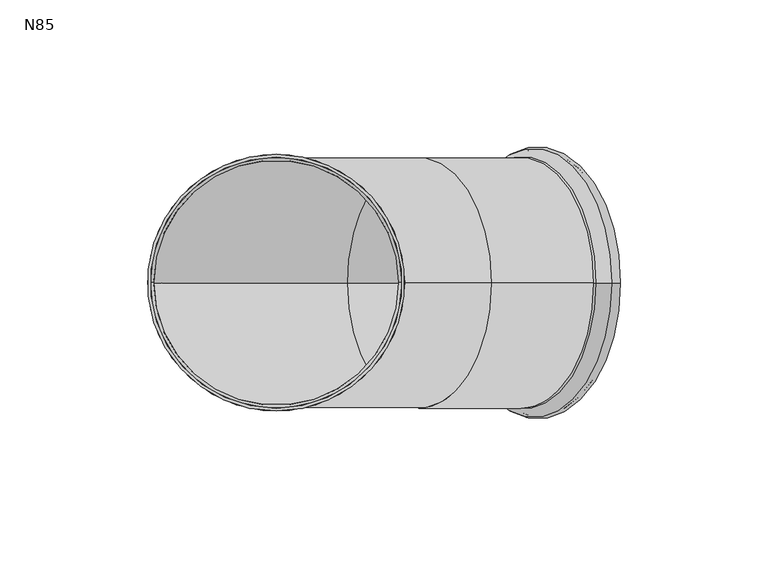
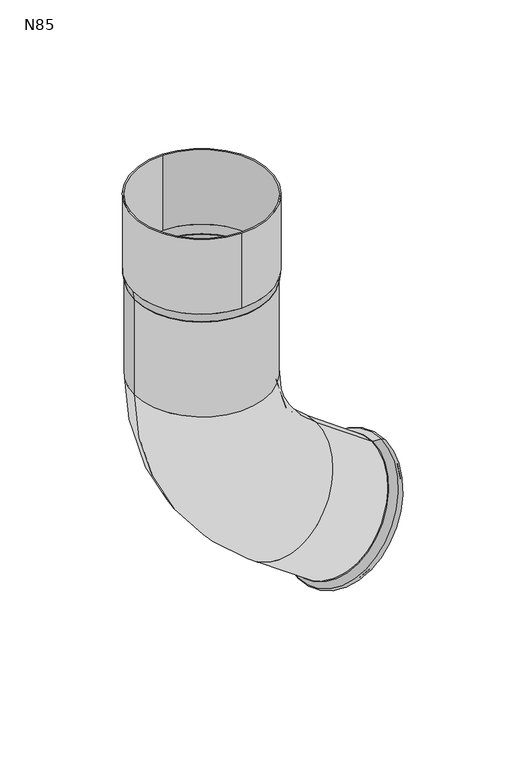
"""IFC4 building model written with IfcOpenShell, lengths in millimetres: proxy geometry, GROVIK_Downpipe_Shoe : N85."""

from ifc_helpers import new_model, si_unit, point, frame, origin, origin_with_axes, origin_2d, place, context, project, spatial, polyline, circle_curve, ellipse_curve, trimmed, segment, composite_curve, outline, extrude, source, transform, mapped, element, save
from ifc_brep_helpers import plane_surface, cylinder_surface, revolved_surface, advanced_brep


def n85_78dd6ef3(model_context):
    return source(origin(), model_context, "Body", "SolidModel", [
        extrude(outline(composite_curve([segment(trimmed(circle_curve(origin_2d(), 43.5), [point((0.0, 43.5))], [point((0.0, -43.5))], False, "CARTESIAN"), True, "CONTINUOUS"), segment(trimmed(circle_curve(origin_2d(), 43.5), [point((0.0, -43.5))], [point((0.0, 43.5))], False, "CARTESIAN"), True, "CONTINUOUS")], self_intersect=False), holes=[composite_curve([segment(trimmed(circle_curve(origin_2d(), 42.5), [point((0.0, 42.5))], [point((0.0, -42.5))], True, "CARTESIAN"), True, "CONTINUOUS"), segment(trimmed(circle_curve(origin_2d(), 42.5), [point((0.0, -42.5))], [point((0.0, 42.5))], True, "CARTESIAN"), True, "CONTINUOUS")], self_intersect=False)]), frame((0.0, 0.0, 6.0), z_axis=(0.0, 0.0, 1.0), x_axis=(1.0, 0.0, 0.0)), (0.0, 0.0, 1.0), 50.0),
        advanced_brep(
        [(107.3763986, 0.0, -146.9907932), (58.0499964, 0.0, -216.2143877), (106.796088, 0.0, -147.8051884), (58.630307, 0.0, -215.3999925), (72.9274804, 0.0, -122.4436542), (23.6010781, 0.0, -191.6672487), (72.3471698, 0.0, -123.2580494), (24.1813888, 0.0, -190.8528535), (42.5, 0.0, 0.0), (-42.5, 0.0, 0.0), (41.5, 0.0, 0.0), (-41.5, 0.0, 0.0), (-42.5, 0.0, -63.4), (42.5, 0.0, -63.4), (-41.5, 0.0, -63.4), (41.5, 0.0, -63.4)],
        [
            (0, 1, circle_curve(frame((82.7131975, 0.0, -181.6025904), z_axis=(0.8143952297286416, 0.0, -0.5803106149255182), x_axis=(-0.5803106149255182, 0.0, -0.8143952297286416)), 42.5)),
            (1, 0, circle_curve(frame((82.7131975, 0.0, -181.6025904), z_axis=(0.8143952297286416, 0.0, -0.5803106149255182), x_axis=(-0.5803106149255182, 0.0, -0.8143952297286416)), 42.5)),
            (2, 3, circle_curve(frame((82.7131975, 0.0, -181.6025904), z_axis=(-0.8143952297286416, 0.0, 0.5803106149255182), x_axis=(-0.5803106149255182, 0.0, -0.8143952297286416)), 41.5)),
            (3, 2, circle_curve(frame((82.7131975, 0.0, -181.6025904), z_axis=(-0.8143952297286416, 0.0, 0.5803106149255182), x_axis=(-0.5803106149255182, 0.0, -0.8143952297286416)), 41.5)),
            (0, 4),
            (4, 5, circle_curve(frame((48.2642793, 0.0, -157.0554514), z_axis=(0.8143952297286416, 0.0, -0.5803106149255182), x_axis=(-0.5803106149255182, 0.0, -0.8143952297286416)), 42.5)),
            (5, 1),
            (5, 4, circle_curve(frame((48.2642793, 0.0, -157.0554514), z_axis=(0.8143952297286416, 0.0, -0.5803106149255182), x_axis=(-0.5803106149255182, 0.0, -0.8143952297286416)), 42.5)),
            (2, 6),
            (6, 7, circle_curve(frame((48.2642793, 0.0, -157.0554514), z_axis=(-0.8143952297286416, 0.0, 0.5803106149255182), x_axis=(-0.5803106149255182, 0.0, -0.8143952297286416)), 41.5)),
            (7, 3),
            (7, 6, circle_curve(frame((48.2642793, 0.0, -157.0554514), z_axis=(-0.8143952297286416, 0.0, 0.5803106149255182), x_axis=(-0.5803106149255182, 0.0, -0.8143952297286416)), 41.5)),
            (8, 9, circle_curve(frame((0.0, 0.0, 0.0), z_axis=(0.0, 0.0, 1.0), x_axis=(-1.0, 0.0, 0.0)), 42.5)),
            (9, 8, circle_curve(frame((0.0, 0.0, 0.0), z_axis=(0.0, 0.0, 1.0), x_axis=(-1.0, 0.0, 0.0)), 42.5)),
            (10, 11, circle_curve(frame((0.0, 0.0, 0.0), z_axis=(0.0, 0.0, -1.0), x_axis=(-1.0, 0.0, 0.0)), 41.5)),
            (11, 10, circle_curve(frame((0.0, 0.0, 0.0), z_axis=(0.0, 0.0, -1.0), x_axis=(-1.0, 0.0, 0.0)), 41.5)),
            (12, 13, circle_curve(frame((0.0, 0.0, -63.4), z_axis=(0.0, 0.0, 1.0), x_axis=(-1.0, 0.0, 0.0)), 42.5)),
            (13, 8),
            (9, 12),
            (13, 12, circle_curve(frame((0.0, 0.0, -63.4), z_axis=(0.0, 0.0, 1.0), x_axis=(-1.0, 0.0, 0.0)), 42.5)),
            (14, 15, circle_curve(frame((0.0, 0.0, -63.4), z_axis=(0.0, 0.0, -1.0), x_axis=(-1.0, 0.0, 0.0)), 41.5)),
            (15, 10),
            (11, 14),
            (15, 14, circle_curve(frame((0.0, 0.0, -63.4), z_axis=(0.0, 0.0, -1.0), x_axis=(-1.0, 0.0, 0.0)), 41.5)),
            (12, 5, circle_curve(frame((115.0, 0.0, -63.4), z_axis=(0.0, -1.0, 0.0), x_axis=(-0.5803106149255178, 0.0, -0.8143952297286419)), 157.5)),
            (4, 13, circle_curve(frame((115.0, 0.0, -63.4), z_axis=(0.0, 1.0, 0.0), x_axis=(-0.5803106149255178, 0.0, -0.8143952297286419)), 72.5)),
            (14, 7, circle_curve(frame((115.0, 0.0, -63.4), z_axis=(0.0, -1.0, 0.0), x_axis=(-0.5803106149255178, 0.0, -0.8143952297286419)), 156.5)),
            (6, 15, circle_curve(frame((115.0, 0.0, -63.4), z_axis=(0.0, 1.0, 0.0), x_axis=(-0.5803106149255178, 0.0, -0.8143952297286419)), 73.5)),
        ],
        [
            plane_surface(frame((82.7131975, 0.0, -181.6025904), z_axis=(0.8143952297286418, 0.0, -0.5803106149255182), x_axis=(0.0, -1.0, 0.0))),
            cylinder_surface(frame((82.7131975, 0.0, -181.6025904), z_axis=(0.8143952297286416, 0.0, -0.5803106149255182), x_axis=(-0.5803106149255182, 0.0, -0.8143952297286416)), 42.5),
            revolved_surface(polyline([(24.1813887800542, 0.0, -190.85285343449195), (58.630307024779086, 0.0, -215.39999246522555)]), (82.7131975, 0.0, -181.6025904), (-0.8143952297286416, 0.0, 0.5803106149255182)),
            plane_surface(frame((0.0, 0.0, 0.0), z_axis=(0.0, 0.0, 1.0), x_axis=(0.0, -1.0, 0.0))),
            cylinder_surface(frame((0.0, 0.0, -63.4), z_axis=(0.0, 0.0, -1.0), x_axis=(-1.0, 0.0, 0.0)), 42.5),
            revolved_surface(polyline([(-41.5, 0.0, 0.0), (-41.5, 0.0, -63.4)]), (0.0, 0.0, -63.4), (0.0, 0.0, 1.0)),
            revolved_surface(trimmed(ellipse_curve(frame((48.2642793, 0.0, -157.0554514), z_axis=(0.8143952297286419, 0.0, -0.5803106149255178), x_axis=(-0.5803106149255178, 0.0, -0.8143952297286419)), 42.5, 42.5), [point((72.9274804, 0.0, -122.4436542))], [point((23.6010781, 0.0, -191.6672487))], True, "CARTESIAN"), (115.0, 0.0, -63.4), (0.0, 1.0, 0.0)),
            revolved_surface(trimmed(ellipse_curve(frame((48.2642793, 0.0, -157.0554514), z_axis=(0.8143952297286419, 0.0, -0.5803106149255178), x_axis=(-0.5803106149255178, 0.0, -0.8143952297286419)), 42.5, 42.5), [point((23.6010781, 0.0, -191.6672487))], [point((72.9274804, 0.0, -122.4436542))], True, "CARTESIAN"), (115.0, 0.0, -63.4), (0.0, 1.0, 0.0)),
            revolved_surface(trimmed(ellipse_curve(frame((48.2642793, 0.0, -157.0554514), z_axis=(-0.8143952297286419, 0.0, 0.5803106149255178), x_axis=(-0.5803106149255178, 0.0, -0.8143952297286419)), 41.5, 41.5), [point((72.3471698, 0.0, -123.2580494))], [point((24.1813888, 0.0, -190.8528535))], True, "CARTESIAN"), (115.0, 0.0, -63.4), (0.0, 1.0, 0.0)),
            revolved_surface(trimmed(ellipse_curve(frame((48.2642793, 0.0, -157.0554514), z_axis=(-0.8143952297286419, 0.0, 0.5803106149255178), x_axis=(-0.5803106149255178, 0.0, -0.8143952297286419)), 41.5, 41.5), [point((24.1813888, 0.0, -190.8528535))], [point((72.3471698, 0.0, -123.2580494))], True, "CARTESIAN"), (115.0, 0.0, -63.4), (0.0, 1.0, 0.0)),
        ],
        [
            (0, [[1, 2], [3, 4]]),
            (1, [[-1, 5, 6, 7]]),
            (1, [[-2, -7, 8, -5]]),
            (2, [[-3, 9, 10, 11]]),
            (2, [[-4, -11, 12, -9]]),
            (3, [[13, 14], [15, 16]]),
            (4, [[17, 18, -14, 19]]),
            (4, [[20, -19, -13, -18]]),
            (5, [[21, 22, -16, 23]]),
            (5, [[24, -23, -15, -22]]),
            (6, [[25, -6, 26, -17]]),
            (7, [[-26, -8, -25, -20]]),
            (8, [[27, -10, 28, -21]]),
            (9, [[-28, -12, -27, -24]]),
        ],
    ),
        advanced_brep(
        [(-43.5, 0.0, 6.0), (43.5, 0.0, 6.0), (42.5, 0.0, 6.0), (-42.5, 0.0, 6.0), (-42.5, 0.0, 0.0), (42.5, 0.0, 0.0), (-41.5, 0.0, 0.0), (41.5, 0.0, 0.0)],
        [
            (0, 1, circle_curve(frame((0.0, 0.0, 6.0), z_axis=(0.0, 0.0, 1.0), x_axis=(-1.0, 0.0, 0.0)), 43.5)),
            (1, 0, circle_curve(frame((0.0, 0.0, 6.0), z_axis=(0.0, 0.0, 1.0), x_axis=(1.0, 0.0, 0.0)), 43.5)),
            (2, 3, circle_curve(frame((0.0, 0.0, 6.0), z_axis=(0.0, 0.0, -1.0), x_axis=(-1.0, 0.0, 0.0)), 42.5)),
            (3, 2, circle_curve(frame((0.0, 0.0, 6.0), z_axis=(0.0, 0.0, -1.0), x_axis=(1.0, 0.0, 0.0)), 42.5)),
            (4, 5, circle_curve(frame((0.0, 0.0, 0.0), z_axis=(0.0, 0.0, -1.0), x_axis=(1.0, 0.0, 0.0)), 42.5)),
            (5, 4, circle_curve(frame((0.0, 0.0, 0.0), z_axis=(0.0, 0.0, -1.0), x_axis=(-1.0, 0.0, 0.0)), 42.5)),
            (6, 7, circle_curve(frame((0.0, 0.0, 0.0), z_axis=(0.0, 0.0, 1.0), x_axis=(-1.0, 0.0, 0.0)), 41.5)),
            (7, 6, circle_curve(origin_with_axes(), 41.5)),
            (0, 4),
            (5, 1),
            (6, 3),
            (2, 7),
        ],
        [
            plane_surface(frame((0.0, 0.0, 6.0), z_axis=(0.0, 0.0, 1.0), x_axis=(0.0, -1.0, 0.0))),
            plane_surface(frame((0.0, 0.0, 0.0), z_axis=(0.0, 0.0, -1.0), x_axis=(0.0, -1.0, 0.0))),
            revolved_surface(polyline([(42.5, 0.0, 0.0), (43.5, 0.0, 6.0)]), (0.0, 0.0, -255.0), (0.0, 0.0, 1.0)),
            revolved_surface(polyline([(-42.5, 0.0, 0.0), (-43.5, 0.0, 6.0)]), (0.0, 0.0, -255.0), (0.0, 0.0, 1.0)),
            revolved_surface(polyline([(-42.5, 0.0, 6.0), (-41.5, 0.0, 0.0)]), (0.0, 0.0, -249.0), (0.0, 0.0, 1.0)),
        ],
        [
            (0, [[1, 2], [3, 4]]),
            (1, [[5, 6], [7, 8]]),
            (2, [[-1, 9, -6, 10]]),
            (3, [[-2, -10, -5, -9]]),
            (4, [[11, -3, 12, -7]]),
            (4, [[-11, -8, -12, -4]]),
        ],
    ),
        advanced_brep(
        [(59.285818, 0.0, -215.8670875), (107.451599, 0.0, -148.2722835), (106.7600744, 0.0, -147.7795263), (58.5942934, 0.0, -215.3743304), (61.6993401, 0.0, -221.575106), (113.6348078, 0.0, -148.690006), (64.6750442, 0.0, -222.443918), (115.4275182, 0.0, -151.2190056), (67.5580023, 0.0, -219.2602075), (113.3594868, 0.0, -154.9834054), (68.3773314, 0.0, -219.8440338), (114.1788159, 0.0, -155.5672317), (65.2418475, 0.0, -223.2677712), (116.3912773, 0.0, -151.4857796), (60.7782913, 0.0, -221.9645531), (113.7022118, 0.0, -147.6922802), (58.6954591, 0.0, -217.0386217), (108.3661984, 0.0, -147.3317921), (58.0139827, 0.0, -216.1887256), (107.340385, 0.0, -146.9651311)],
        [
            (0, 1, circle_curve(frame((83.3687085, 0.0, -182.0696855), z_axis=(0.8143952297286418, 0.0, -0.580310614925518), x_axis=(0.580310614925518, 0.0, 0.8143952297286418)), 41.5)),
            (1, 2),
            (2, 3, circle_curve(frame((82.6771839, 0.0, -181.5769283), z_axis=(-0.8143952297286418, 0.0, 0.580310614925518), x_axis=(0.580310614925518, 0.0, 0.8143952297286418)), 41.5)),
            (3, 0),
            (1, 0, circle_curve(frame((83.3687085, 0.0, -182.0696855), z_axis=(0.8143952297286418, 0.0, -0.580310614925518), x_axis=(0.580310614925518, 0.0, 0.8143952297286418)), 41.5)),
            (3, 2, circle_curve(frame((82.6771839, 0.0, -181.5769283), z_axis=(-0.8143952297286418, 0.0, 0.580310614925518), x_axis=(0.580310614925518, 0.0, 0.8143952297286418)), 41.5)),
            (4, 5, circle_curve(frame((87.667074, 0.0, -185.132556), z_axis=(0.8143952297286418, 0.0, -0.580310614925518), x_axis=(0.580310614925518, 0.0, 0.8143952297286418)), 44.7479905)),
            (5, 1),
            (0, 4),
            (5, 4, circle_curve(frame((87.667074, 0.0, -185.132556), z_axis=(0.8143952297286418, 0.0, -0.580310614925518), x_axis=(0.580310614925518, 0.0, 0.8143952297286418)), 44.7479905)),
            (6, 7, circle_curve(frame((90.0512812, 0.0, -186.8314618), z_axis=(0.8143952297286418, 0.0, -0.580310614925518), x_axis=(0.580310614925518, 0.0, 0.8143952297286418)), 43.7287142)),
            (7, 5, circle_curve(frame((113.5, 0.0, -150.6854575), z_axis=(0.0, -1.0, 0.0), x_axis=(1.0, 0.0, 0.0)), 2.0)),
            (4, 6, circle_curve(frame((63.5414377, 0.0, -220.7962116), z_axis=(0.0, -1.0, 0.0), x_axis=(0.3264791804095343, 0.0, -0.9452043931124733)), 2.0)),
            (7, 6, circle_curve(frame((90.0512812, 0.0, -186.8314618), z_axis=(0.8143952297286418, 0.0, -0.580310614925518), x_axis=(0.580310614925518, 0.0, 0.8143952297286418)), 43.7287142)),
            (8, 9, circle_curve(frame((90.4587446, 0.0, -187.1218064), z_axis=(0.8143952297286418, 0.0, -0.580310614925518), x_axis=(0.580310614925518, 0.0, 0.8143952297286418)), 39.4629043)),
            (9, 7, circle_curve(frame((106.437738, 0.0, -148.730583), z_axis=(0.0, -1.0, 0.0), x_axis=(1.0, 0.0, 0.0)), 9.3278291)),
            (6, 8, circle_curve(frame((59.3880002, 0.0, -214.7591564), z_axis=(0.0, -1.0, 0.0), x_axis=(0.3264791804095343, 0.0, -0.9452043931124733)), 9.3278291)),
            (9, 8, circle_curve(frame((90.4587446, 0.0, -187.1218064), z_axis=(0.8143952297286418, 0.0, -0.580310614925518), x_axis=(0.580310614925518, 0.0, 0.8143952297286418)), 39.4629043)),
            (10, 11, circle_curve(frame((91.2780737, 0.0, -187.7056327), z_axis=(0.8143952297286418, 0.0, -0.580310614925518), x_axis=(0.580310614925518, 0.0, 0.8143952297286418)), 39.4629043)),
            (11, 9),
            (8, 10),
            (11, 10, circle_curve(frame((91.2780737, 0.0, -187.7056327), z_axis=(0.8143952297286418, 0.0, -0.580310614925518), x_axis=(0.580310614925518, 0.0, 0.8143952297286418)), 39.4629043)),
            (12, 13, circle_curve(frame((90.8165624, 0.0, -187.3767754), z_axis=(0.8143952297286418, 0.0, -0.580310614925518), x_axis=(0.580310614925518, 0.0, 0.8143952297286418)), 44.0707343)),
            (13, 11, circle_curve(frame((106.437738, 0.0, -148.730583), z_axis=(0.0, 1.0, 0.0), x_axis=(1.0, 0.0, 0.0)), 10.3278291)),
            (10, 12, circle_curve(frame((59.3880002, 0.0, -214.7591564), z_axis=(0.0, 1.0, 0.0), x_axis=(0.3264791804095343, 0.0, -0.9452043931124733)), 10.3278291)),
            (13, 12, circle_curve(frame((90.8165624, 0.0, -187.3767754), z_axis=(0.8143952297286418, 0.0, -0.580310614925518), x_axis=(0.580310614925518, 0.0, 0.8143952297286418)), 44.0707343)),
            (14, 15, circle_curve(frame((87.2402515, 0.0, -184.8284167), z_axis=(0.8143952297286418, 0.0, -0.580310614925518), x_axis=(0.580310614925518, 0.0, 0.8143952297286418)), 45.5996488)),
            (15, 13, circle_curve(frame((113.5, 0.0, -150.6854575), z_axis=(0.0, 1.0, 0.0), x_axis=(1.0, 0.0, 0.0)), 3.0)),
            (12, 14, circle_curve(frame((63.5414377, 0.0, -220.7962116), z_axis=(0.0, 1.0, 0.0), x_axis=(0.3264791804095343, 0.0, -0.9452043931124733)), 3.0)),
            (15, 14, circle_curve(frame((87.2402515, 0.0, -184.8284167), z_axis=(0.8143952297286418, 0.0, -0.580310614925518), x_axis=(0.580310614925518, 0.0, 0.8143952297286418)), 45.5996488)),
            (16, 17, circle_curve(frame((83.5308288, 0.0, -182.1852069), z_axis=(0.8143952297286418, 0.0, -0.580310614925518), x_axis=(0.580310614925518, 0.0, 0.8143952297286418)), 42.7966834)),
            (17, 15),
            (14, 16),
            (17, 16, circle_curve(frame((83.5308288, 0.0, -182.1852069), z_axis=(0.8143952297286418, 0.0, -0.580310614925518), x_axis=(0.580310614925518, 0.0, 0.8143952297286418)), 42.7966834)),
            (18, 19, circle_curve(frame((82.6771839, 0.0, -181.5769283), z_axis=(0.8143952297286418, 0.0, -0.580310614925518), x_axis=(0.580310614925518, 0.0, 0.8143952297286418)), 42.5)),
            (19, 17, circle_curve(frame((108.5010062, 0.0, -145.3363406), z_axis=(0.0, -1.0, 0.0), x_axis=(1.0, 0.0, 0.0)), 2.0)),
            (16, 18, circle_curve(frame((56.8533615, 0.0, -217.8175161), z_axis=(0.0, -1.0, 0.0), x_axis=(0.3264791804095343, 0.0, -0.9452043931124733)), 2.0)),
            (19, 18, circle_curve(frame((82.6771839, 0.0, -181.5769283), z_axis=(0.8143952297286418, 0.0, -0.580310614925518), x_axis=(0.580310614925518, 0.0, 0.8143952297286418)), 42.5)),
            (2, 19),
            (18, 3),
        ],
        [
            revolved_surface(polyline([(106.76007438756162, 0.0, -147.77952631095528), (107.45159901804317, 0.0, -148.2722834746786)]), (88.0368797, 0.0, -185.3960671), (-0.8143952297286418, 0.0, 0.580310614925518)),
            revolved_surface(polyline([(107.451599, 0.0, -148.2722835), (113.6348078, 0.0, -148.690006)]), (88.0368797, 0.0, -185.3960671), (-0.8143952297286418, 0.0, 0.580310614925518)),
            revolved_surface(trimmed(ellipse_curve(frame((113.5, 0.0, -150.6854575), z_axis=(0.0, 1.0, 0.0), x_axis=(1.0, 0.0, 0.0)), 2.0, 2.0), [point((113.6348078, 0.0, -148.690006))], [point((115.4275182, 0.0, -151.2190056))], True, "CARTESIAN"), (88.0368797, 0.0, -185.3960671), (-0.8143952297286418, 0.0, 0.580310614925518)),
            revolved_surface(trimmed(ellipse_curve(frame((106.437738, 0.0, -148.730583), z_axis=(0.0, 1.0, 0.0), x_axis=(1.0, 0.0, 0.0)), 9.3278291, 9.3278291), [point((115.4275182, 0.0, -151.2190056))], [point((113.3594868, 0.0, -154.9834054))], True, "CARTESIAN"), (88.0368797, 0.0, -185.3960671), (-0.8143952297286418, 0.0, 0.580310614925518)),
            revolved_surface(polyline([(113.35948679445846, 0.0, -154.98340540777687), (114.17881593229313, 0.0, -155.56723175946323)]), (88.0368797, 0.0, -185.3960671), (-0.8143952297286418, 0.0, 0.580310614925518)),
            revolved_surface(trimmed(ellipse_curve(frame((106.437738, 0.0, -148.730583), z_axis=(0.0, -1.0, 0.0), x_axis=(1.0, 0.0, 0.0)), 10.3278291, 10.3278291), [point((114.1788159, 0.0, -155.5672317))], [point((116.3912773, 0.0, -151.4857796))], True, "CARTESIAN"), (88.0368797, 0.0, -185.3960671), (-0.8143952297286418, 0.0, 0.580310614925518)),
            revolved_surface(trimmed(ellipse_curve(frame((113.5, 0.0, -150.6854575), z_axis=(0.0, -1.0, 0.0), x_axis=(1.0, 0.0, 0.0)), 3.0, 3.0), [point((116.3912773, 0.0, -151.4857796))], [point((113.7022118, 0.0, -147.6922802))], True, "CARTESIAN"), (88.0368797, 0.0, -185.3960671), (-0.8143952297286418, 0.0, 0.580310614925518)),
            revolved_surface(polyline([(113.7022118, 0.0, -147.6922802), (108.3661984, 0.0, -147.3317921)]), (88.0368797, 0.0, -185.3960671), (-0.8143952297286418, 0.0, 0.580310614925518)),
            revolved_surface(trimmed(ellipse_curve(frame((108.5010062, 0.0, -145.3363406), z_axis=(0.0, 1.0, 0.0), x_axis=(1.0, 0.0, 0.0)), 2.0, 2.0), [point((108.3661984, 0.0, -147.3317921))], [point((107.340385, 0.0, -146.9651311))], True, "CARTESIAN"), (88.0368797, 0.0, -185.3960671), (-0.8143952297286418, 0.0, 0.580310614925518)),
            plane_surface(frame((82.6771839, 0.0, -181.5769283), z_axis=(-0.8143952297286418, 0.0, 0.580310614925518), x_axis=(0.580310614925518, 0.0, 0.8143952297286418))),
        ],
        [
            (0, [[1, 2, 3, 4]]),
            (0, [[5, -4, 6, -2]]),
            (1, [[7, 8, -1, 9]]),
            (1, [[10, -9, -5, -8]]),
            (2, [[11, 12, -7, 13]]),
            (2, [[14, -13, -10, -12]]),
            (3, [[15, 16, -11, 17]]),
            (3, [[18, -17, -14, -16]]),
            (4, [[19, 20, -15, 21]]),
            (4, [[22, -21, -18, -20]]),
            (5, [[23, 24, -19, 25]]),
            (5, [[26, -25, -22, -24]]),
            (6, [[27, 28, -23, 29]]),
            (6, [[30, -29, -26, -28]]),
            (7, [[31, 32, -27, 33]]),
            (7, [[34, -33, -30, -32]]),
            (8, [[35, 36, -31, 37]]),
            (8, [[38, -37, -34, -36]]),
            (9, [[-3, 39, -35, 40]]),
            (9, [[-6, -40, -38, -39]]),
        ],
    ),
    ])


if __name__ == "__main__":
    model = new_model("IFC4")
    model_context = context("Model", 3, world=origin())
    ifc_project = project(units=[si_unit("LENGTHUNIT", "METRE", prefix="MILLI")], contexts=[model_context])
    site = spatial("IfcSite", under=ifc_project)
    building = spatial("IfcBuilding", under=site)
    placement = place(None, origin())
    n85_shape = n85_78dd6ef3(model_context)
    element("IfcBuildingElementProxy", 1, Name="GROVIK_Downpipe_Shoe : N85", ObjectType="GROVIK_Downpipe_Shoe : N85", at=placement, inside=building, context=model_context, shape_type="MappedRepresentation", body=[
        mapped(n85_shape, transform((0.0, 0.0, 0.0), x_axis=(1.0, 0.0, 0.0), y_axis=(0.0, 1.0, 0.0), z_axis=(0.0, 0.0, 1.0))),
    ])
    save(model, "model.ifc")
